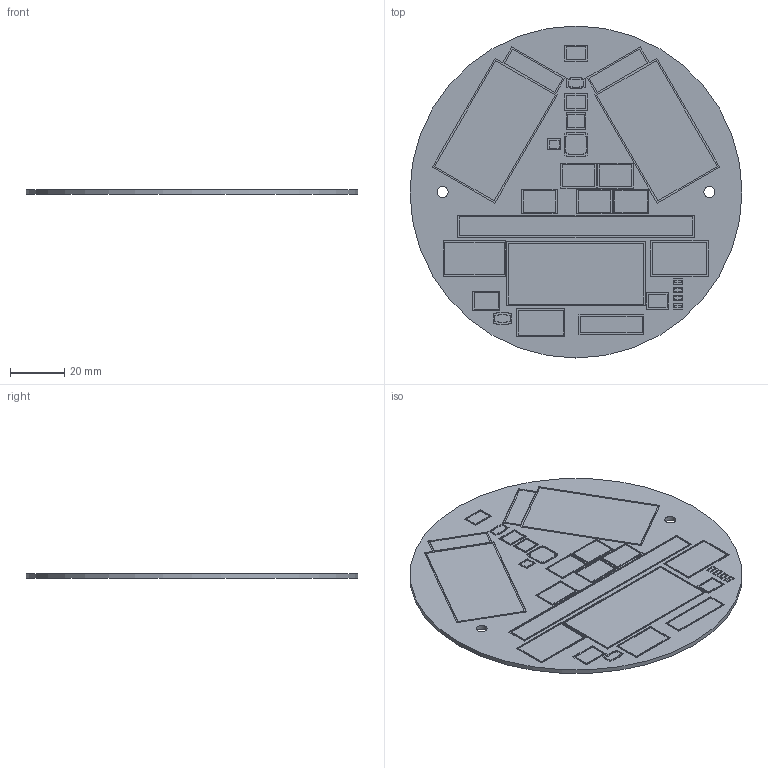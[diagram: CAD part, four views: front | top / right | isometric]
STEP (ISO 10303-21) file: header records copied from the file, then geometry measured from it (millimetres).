
FILE_DESCRIPTION(('Open CASCADE Model'),'2;1');
FILE_NAME('Open CASCADE Shape Model','2026-10-01T15:23:49',('Author'),( 'Open CASCADE'),'Open CASCADE STEP processor 7.9','Open CASCADE 7.9' ,'Unknown');
FILE_SCHEMA(('AUTOMOTIVE_DESIGN { 1 0 10303 214 1 1 1 1 }'));
Length unit declared in the file: millimetre
Products named in the file (1): Open CASCADE STEP translator 7.9 1
Bounding box: 122 x 122 x 1.6 mm (x, y, z)
Volume: 18322.8 mm3; surface area: 25107.7 mm2
Topology: 1 solids, 1 shells, 363 faces, 921 edges, 614 vertices
Faces by surface type: plane 360, cylinder 3
Full cylindrical faces by diameter (mm): 4 x2, 122 x1
Entity records: 21806 total; most frequent: CARTESIAN_POINT 4663, DIRECTION 2595, LINE 1853, VECTOR 1853, ORIENTED_EDGE 1842, PCURVE 1842, DEFINITIONAL_REPRESENTATION 1842, EDGE_CURVE 921
